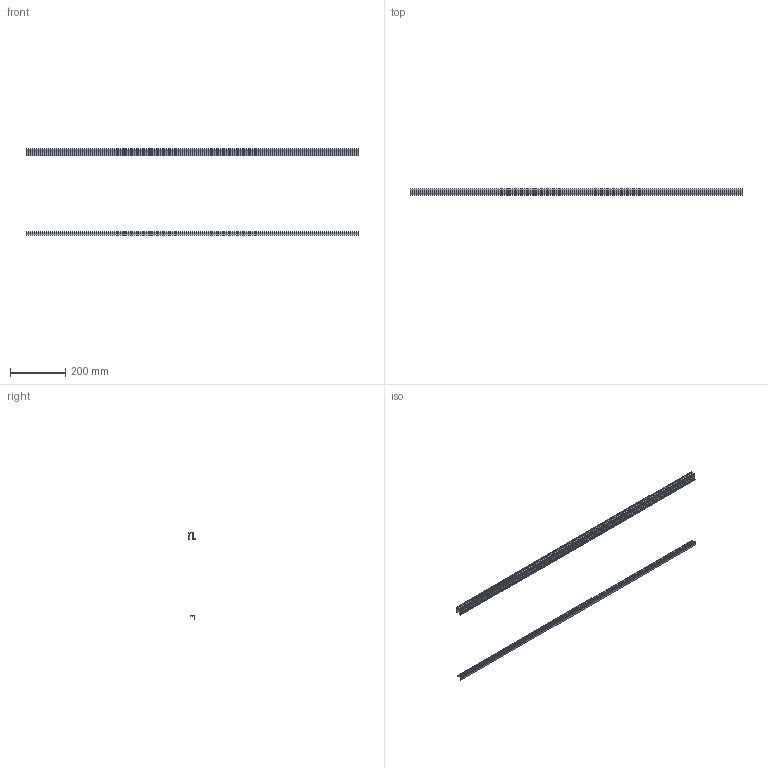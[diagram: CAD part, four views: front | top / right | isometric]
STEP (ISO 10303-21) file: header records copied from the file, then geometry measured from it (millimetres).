
FILE_DESCRIPTION(('CATIA V5 STEP Exchange'),'2;1');
FILE_NAME('C:\Users\varg\Desktop\VIJAY\9239311_3D.stp','2017-09-18T10:17:20+00:00',('none'),('none'),'CATIA Version 5 Release 20 SP 7 (IN-10)','CATIA V5 STEP AP203','none');
FILE_SCHEMA(('CONFIG_CONTROL_DESIGN'));
Length unit declared in the file: millimetre
Products named in the file (1): 9239311_3D
Bounding box: 1200 x 23 x 313.1 mm (x, y, z)
Volume: 196096.5 mm3; surface area: 245961.8 mm2
Topology: 2 solids, 2 shells, 76 faces, 216 edges, 144 vertices
Faces by surface type: plane 51, bspline 25
Entity records: 2800 total; most frequent: CARTESIAN_POINT 1053, ORIENTED_EDGE 432, DIRECTION 243, EDGE_CURVE 216, VERTEX_POINT 144, VECTOR 141, LINE 141, ADVANCED_FACE 76
